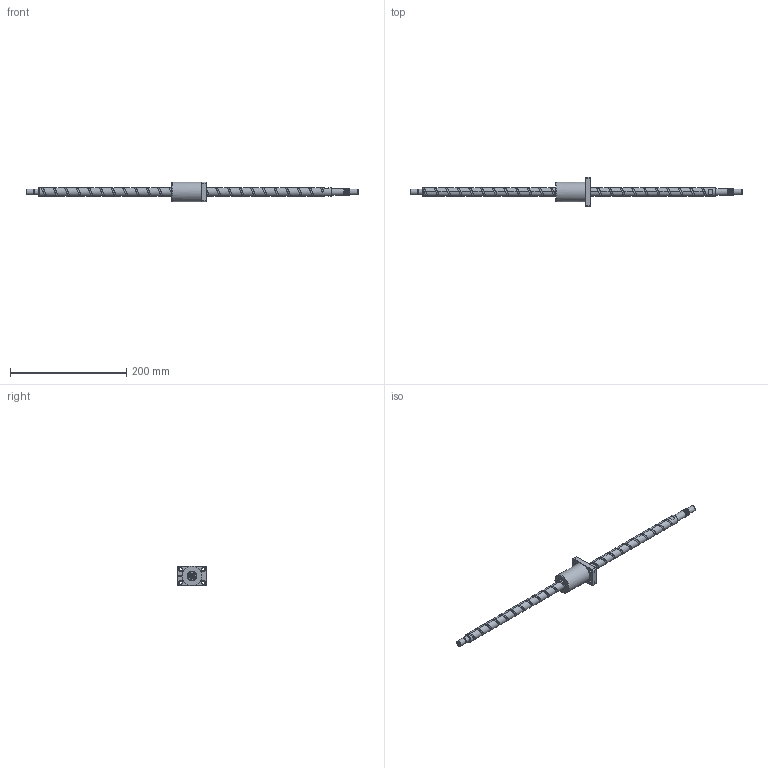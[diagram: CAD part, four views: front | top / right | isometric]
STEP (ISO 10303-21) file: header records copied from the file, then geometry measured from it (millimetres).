
FILE_DESCRIPTION (( 'STEP AP203' ), '1' );
FILE_NAME ('XSVR01520A1DGC5-571-P1.step', '2024-06-03T05:37:13', ( '' ), ( '' ), 'SwSTEP 2.0', 'SolidWorks 2022', '' );
FILE_SCHEMA (( 'CONFIG_CONTROL_DESIGN' ));
Length unit declared in the file: millimetre
Products named in the file (1): XSVR01520A1DGC5-571-P1
Bounding box: 571 x 50 x 34 mm (x, y, z)
Volume: 137499.7 mm3; surface area: 41864 mm2
Topology: 2 solids, 2 shells, 155 faces, 419 edges, 274 vertices
Faces by surface type: cylinder 78, plane 43, cone 15, bspline 10, torus 9
Full cylindrical faces by diameter (mm): 4 x1, 4.2 x15, 5 x6, 5.5 x4, 9.5 x4, 9.6 x1, 10 x3, 12 x9, 15 x25, 17 x1, 34 x1
Entity records: 17250 total; most frequent: CARTESIAN_POINT 15122, ORIENTED_EDGE 410, DIRECTION 391, EDGE_CURVE 205, AXIS2_PLACEMENT_3D 168, EDGE_LOOP 153, VERTEX_POINT 150, FACE_OUTER_BOUND 120
